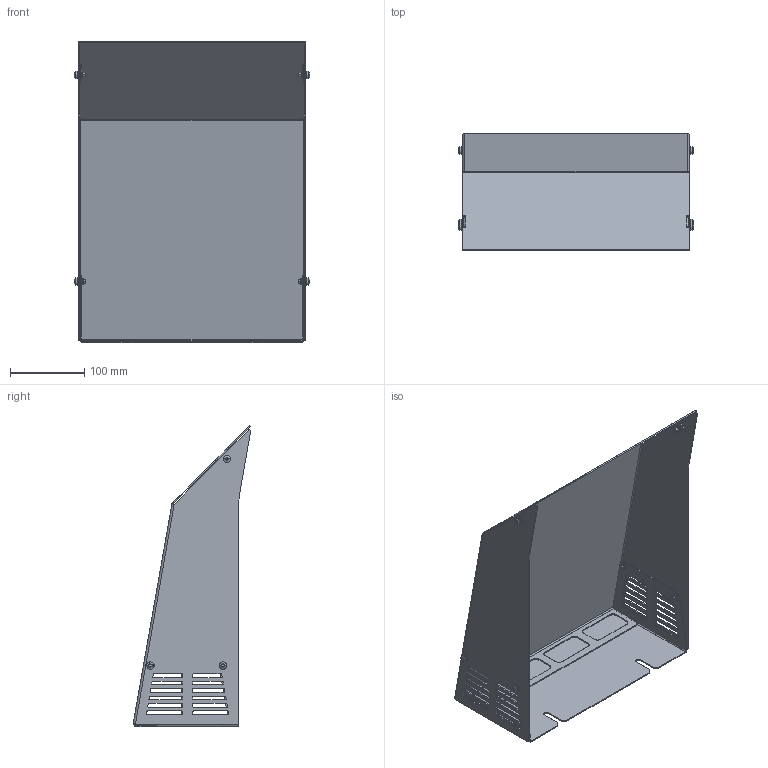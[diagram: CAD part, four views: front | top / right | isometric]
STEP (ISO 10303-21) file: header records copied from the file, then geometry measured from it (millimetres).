
FILE_DESCRIPTION((''),'2;1');
FILE_NAME('3AXD50000875337_ASM','2023-09-25T08:25:26',('USMAKAR'),(''),'CREO PARAMETRIC BY PTC INC, 2020281','CREO PARAMETRIC BY PTC INC, 2020281','');
FILE_SCHEMA(('CONFIG_CONTROL_DESIGN'));
Length unit declared in the file: millimetre
Products named in the file (4): 3AXD50000872374; 3AXD50000871667; LIB_3AXD50000875665_M5X12; 3AXD50000875337_ASM
Assembly tree (8 placements, depth 2):
  3AXD50000875337_ASM
    3AXD50000872374
    3AXD50000871667
    LIB_3AXD50000875665_M5X12  x6
Bounding box: 317.98 x 158.38 x 406.5 mm (x, y, z)
Volume: 408702 mm3; surface area: 555799.2 mm2
Topology: 8 solids, 8 shells, 686 faces, 1808 edges, 1156 vertices
Faces by surface type: plane 364, cylinder 260, torus 48, sphere 12, bspline 2
Entity records: 17412 total; most frequent: CARTESIAN_POINT 3104, DIRECTION 3090, ORIENTED_EDGE 2916, EDGE_CURVE 1458, AXIS2_PLACEMENT_3D 1092, VERTEX_POINT 926, VECTOR 906, LINE 906
